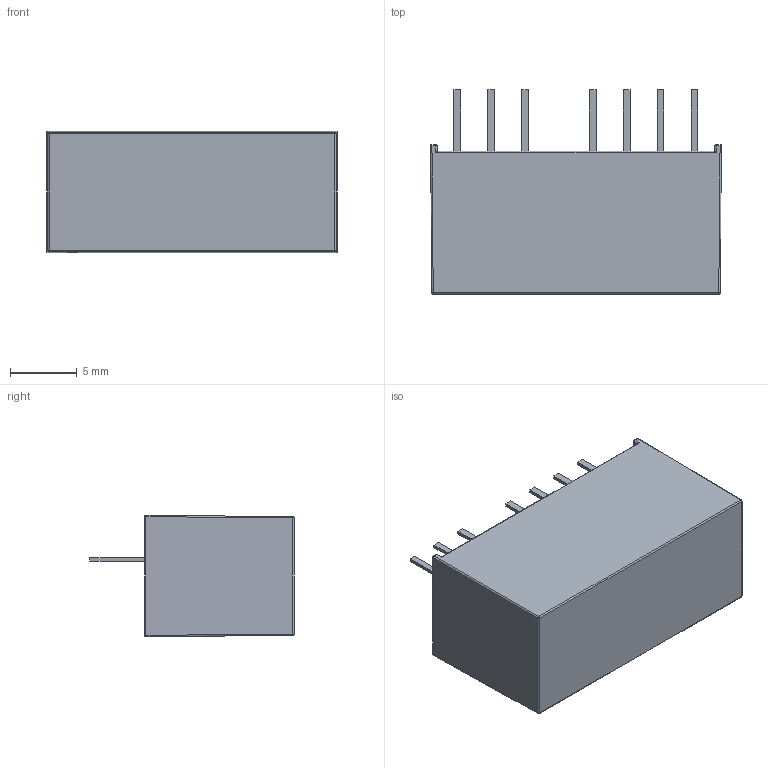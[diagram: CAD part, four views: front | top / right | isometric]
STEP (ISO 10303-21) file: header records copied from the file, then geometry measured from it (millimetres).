
FILE_DESCRIPTION(('STEP AP214'),'1');
FILE_NAME('D:/RobotParts/CACHE_CAO/RS_COMPONENTS/Batch_42/CAD/Temp/55717.stp','2015-09-27T13:08:39',('TraceParts'),('TraceParts S.A.'),'Spatial InterOp 3D',' ',' ');
FILE_SCHEMA(('automotive_design'));
Length unit declared in the file: millimetre
Products named in the file (1): Verrundung1
Bounding box: 21.8 x 15.3 x 9.1 mm (x, y, z)
Volume: 2097.2 mm3; surface area: 1106.9 mm2
Topology: 1 solids, 1 shells, 82 faces, 188 edges, 104 vertices
Faces by surface type: plane 46, cylinder 22, sphere 12, torus 2
Entity records: 2843 total; most frequent: DIRECTION 380, CARTESIAN_POINT 375, ORIENTED_EDGE 352, EDGE_CURVE 176, LINE 130, VECTOR 130, AXIS2_PLACEMENT_3D 125, VERTEX_POINT 104
